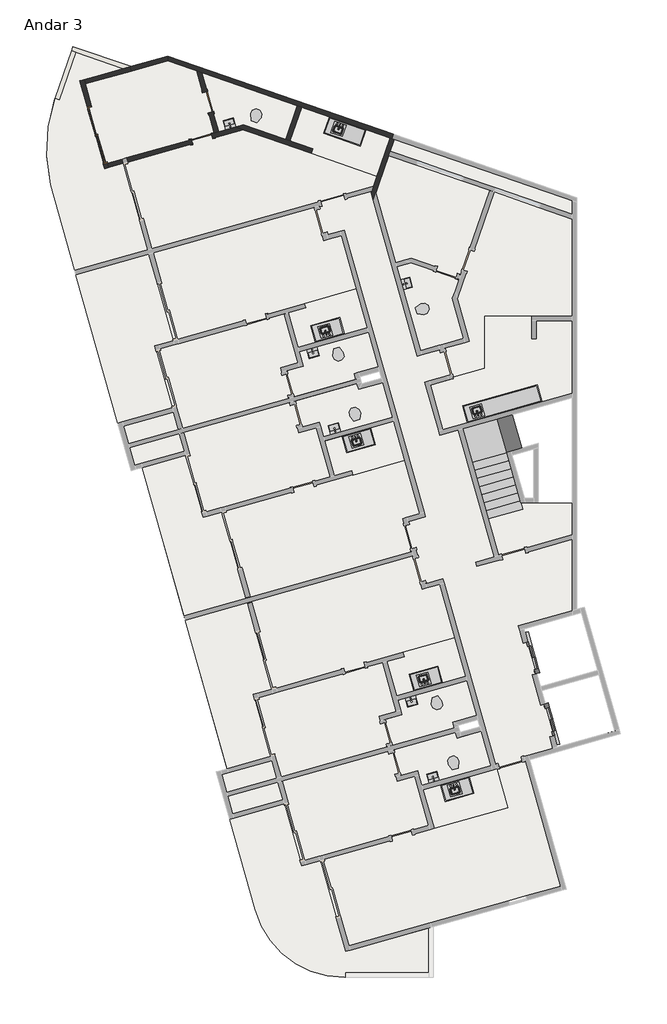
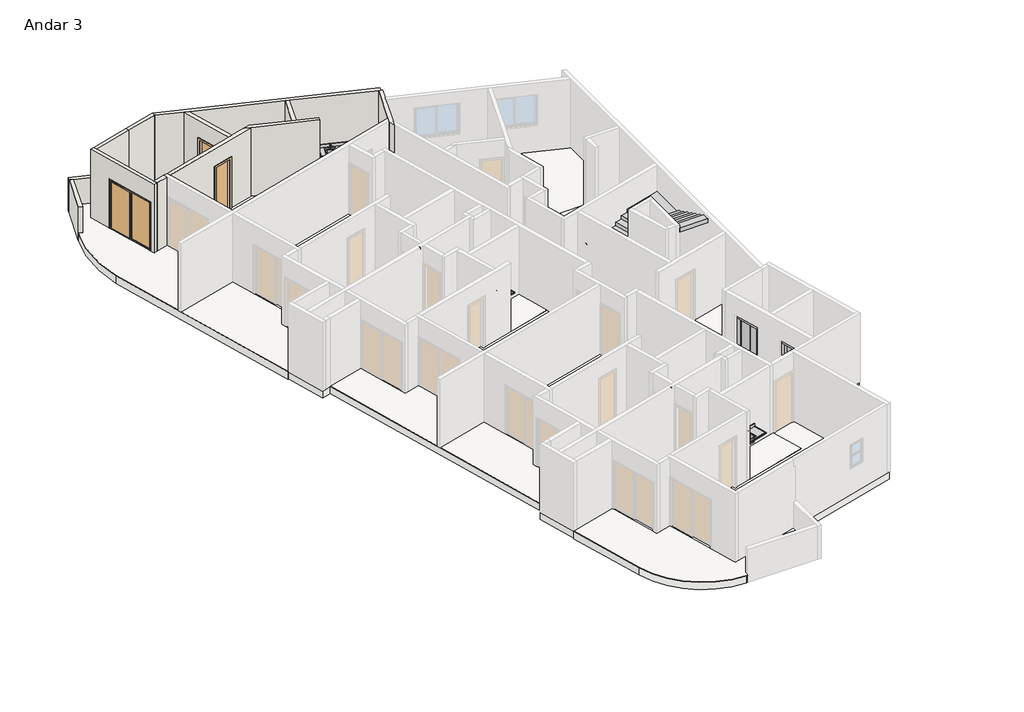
# One storey, part 3 of 3: 18 flow terminals, 18 slabs, 12 walls, 8 proxies, 3 doors, 1 stair flight.
"""IFC4 building model written with IfcOpenShell, lengths in millimetres."""

from ifc_helpers import new_model, si_unit, point, frame, frame_2d, origin, place, context, project, spatial, polyline, circle_curve, trimmed, segment, composite_curve, outline, extrude, faceted_brep, transform, mapped, element, save
from components import specialty_equipment_6c35da8b, specialty_equipment_77dfa124, rf_bancada_cozinha_rf_bancada_cozinha_340fef9f, rf_bancada_cozinha_rf_bancada_cozinha_cfb88ba1, rf_bancada_cozinha_rf_bancada_cozinha_2f873929, rf_bancada_cozinha_rf_bancada_cozinha_798ceddf, p3_70cm_ef4d15e3, p3_70cm_0a698c7c, p4_correr_200cm_eaaa0877, flow_terminal_cab7bae2, flow_terminal_3fb7dc42, flow_terminal_e42b9071, flow_terminal_c6e042c4, ap_01_creme_cr37_13e02e03, ap_01_creme_cr37_5ce6e54d

model = new_model("IFC4")

# Units and contexts
model_context = context("Model", 3, world=origin())
ifc_project = project(units=[si_unit("LENGTHUNIT", "METRE", prefix="MILLI")], contexts=[model_context])

# Site, building, storey
site = spatial("IfcSite", under=ifc_project)
building = spatial("IfcBuilding", under=site)
storey = spatial("IfcBuildingStorey", under=building, Name="Andar 3", Elevation=59450.0)

# Proxies
placement = place(None, origin())
specialty_equipment_shape = specialty_equipment_6c35da8b(model_context)
element("IfcBuildingElementProxy", 1, Name="Porta do elevador : Porta do elevador", ObjectType="Porta do elevador : Porta do elevador", at=placement, inside=storey, context=model_context, shape_type="MappedRepresentation", body=[
    mapped(specialty_equipment_shape, transform((-76594.4337486, 15747.4543727, 59450.0), x_axis=(0.27176796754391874, -0.9623628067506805, 0.0), y_axis=(0.9623628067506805, 0.27176796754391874, 0.0), z_axis=(0.0, 0.0, 1.0))),
])
specialty_equipment_2_shape = specialty_equipment_77dfa124(model_context)
element("IfcBuildingElementProxy", 2, Name="Porta do elevador : Porta do elevador", ObjectType="Porta do elevador : Porta do elevador", at=placement, inside=storey, context=model_context, shape_type="MappedRepresentation", body=[
    mapped(specialty_equipment_2_shape, transform((-75942.1906265, 13437.7836365, 59450.0), x_axis=(-0.27176796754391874, 0.9623628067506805, 0.0), y_axis=(-0.9623628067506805, -0.27176796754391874, 0.0), z_axis=(0.0, 0.0, 1.0))),
])
rf_bancada_cozinha_rf_bancada_cozinha_shape = rf_bancada_cozinha_rf_bancada_cozinha_340fef9f(model_context)
element("IfcBuildingElementProxy", 3, Name="RF_Bancada Cozinha : RF_Bancada Cozinha", ObjectType="RF_Bancada Cozinha : RF_Bancada Cozinha", at=placement, inside=storey, context=model_context, shape_type="MappedRepresentation", body=[
    mapped(rf_bancada_cozinha_rf_bancada_cozinha_shape, transform((-82760.548019, 26451.5820971, 60200.0), x_axis=(-0.9623628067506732, -0.27176796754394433, 0.0), y_axis=(0.27176796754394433, -0.9623628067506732, 0.0), z_axis=(0.0, 0.0, 1.0))),
])
element("IfcBuildingElementProxy", 4, Name="RF_Bancada Cozinha : RF_Bancada Cozinha", ObjectType="RF_Bancada Cozinha : RF_Bancada Cozinha", at=placement, inside=storey, context=model_context, shape_type="MappedRepresentation", body=[
    mapped(rf_bancada_cozinha_rf_bancada_cozinha_shape, transform((-79472.1556117, 14806.9921354, 60200.0), x_axis=(-0.9623628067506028, -0.2717679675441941, 0.0), y_axis=(0.2717679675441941, -0.9623628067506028, 0.0), z_axis=(0.0, 0.0, 1.0))),
])
rf_bancada_cozinha_rf_bancada_cozinha_2_shape = rf_bancada_cozinha_rf_bancada_cozinha_cfb88ba1(model_context)
element("IfcBuildingElementProxy", 5, Name="RF_Bancada Cozinha : RF_Bancada Cozinha", ObjectType="RF_Bancada Cozinha : RF_Bancada Cozinha", at=placement, inside=storey, context=model_context, shape_type="MappedRepresentation", body=[
    mapped(rf_bancada_cozinha_rf_bancada_cozinha_2_shape, transform((-81877.3021245, 23323.9029751, 60200.0), x_axis=(-0.9623628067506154, -0.27176796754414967, 0.0), y_axis=(0.27176796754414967, -0.9623628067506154, 0.0), z_axis=(0.0, 0.0, 1.0))),
])
element("IfcBuildingElementProxy", 6, Name="RF_Bancada Cozinha : RF_Bancada Cozinha", ObjectType="RF_Bancada Cozinha : RF_Bancada Cozinha", at=placement, inside=storey, context=model_context, shape_type="MappedRepresentation", body=[
    mapped(rf_bancada_cozinha_rf_bancada_cozinha_2_shape, transform((-78588.9097172, 11679.3130134, 60200.0), x_axis=(-0.9623628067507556, -0.27176796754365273, 0.0), y_axis=(0.27176796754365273, -0.9623628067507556, 0.0), z_axis=(0.0, 0.0, 1.0))),
])
rf_bancada_cozinha_rf_bancada_cozinha_3_shape = rf_bancada_cozinha_rf_bancada_cozinha_2f873929(model_context)
element("IfcBuildingElementProxy", 7, Name="RF_Bancada Cozinha : RF_Bancada Cozinha", ObjectType="RF_Bancada Cozinha : RF_Bancada Cozinha", at=placement, inside=storey, context=model_context, shape_type="MappedRepresentation", body=[
    mapped(rf_bancada_cozinha_rf_bancada_cozinha_3_shape, transform((-82030.0326121, 33293.9830661, 60200.0), x_axis=(-0.9449109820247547, 0.32732741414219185, 0.0), y_axis=(-0.32732741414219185, -0.9449109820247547, 0.0), z_axis=(0.0, 0.0, 1.0))),
])
rf_bancada_cozinha_rf_bancada_cozinha_4_shape = rf_bancada_cozinha_rf_bancada_cozinha_798ceddf(model_context)
element("IfcBuildingElementProxy", 8, Name="RF_Bancada Cozinha : RF_Bancada Cozinha", ObjectType="RF_Bancada Cozinha : RF_Bancada Cozinha", at=placement, inside=storey, context=model_context, shape_type="MappedRepresentation", body=[
    mapped(rf_bancada_cozinha_rf_bancada_cozinha_4_shape, transform((-76157.6622331, 24197.9763092, 60200.0), x_axis=(-0.9623628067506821, -0.27176796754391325, 0.0), y_axis=(0.27176796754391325, -0.9623628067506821, 0.0), z_axis=(0.0, 0.0, 1.0))),
])

# Doors
p3_70cm_shape = p3_70cm_ef4d15e3(model_context)
element("IfcDoor", 9, ObjectType="M_Folha única1 : P3 - 70CM", at=placement, inside=storey, context=model_context, shape_type="MappedRepresentation", body=[
    mapped(p3_70cm_shape, transform((-87513.806232, 32980.5300491, 59450.0), x_axis=(0.9623628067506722, 0.2717679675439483, 0.0), y_axis=(-0.2717679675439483, 0.9623628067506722, 0.0), z_axis=(0.0, 0.0, 1.0))),
])
p3_70cm_2_shape = p3_70cm_0a698c7c(model_context)
element("IfcDoor", 10, ObjectType="M_Folha única1 : P3 - 70CM", at=placement, inside=storey, context=model_context, shape_type="MappedRepresentation", body=[
    mapped(p3_70cm_2_shape, transform((-87314.304722, 34205.8663896, 59450.0), x_axis=(-0.2717679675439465, 0.9623628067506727, 0.0), y_axis=(-0.9623628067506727, -0.2717679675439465, 0.0), z_axis=(0.0, 0.0, 1.0))),
])
p4_correr_200cm_shape = p4_correr_200cm_eaaa0877(model_context)
element("IfcDoor", 11, ObjectType="Porta de correr dupla envidraçada sem revestimento : P4 - CORRER - 200CM", at=placement, inside=storey, context=model_context, shape_type="MappedRepresentation", body=[
    mapped(p4_correr_200cm_shape, transform((-91005.8131296, 33111.4415743, 59450.0), x_axis=(0.2717679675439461, -0.9623628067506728, 0.0), y_axis=(0.9623628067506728, 0.2717679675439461, 0.0), z_axis=(0.0, 0.0, 1.0))),
])

# Flow terminals
flow_terminal_shape = flow_terminal_cab7bae2(model_context)
element("IfcFlowTerminal", 12, ObjectType="RF_Pias : Pia da Bancada", at=placement, inside=storey, context=model_context, shape_type="MappedRepresentation", body=[
    mapped(flow_terminal_shape, transform((-83380.5102831, 26570.4992214, 59302.9), x_axis=(-0.9623628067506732, -0.27176796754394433, 0.0), y_axis=(0.27176796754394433, -0.9623628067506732, 0.0), z_axis=(0.0, 0.0, 1.0))),
])
element("IfcFlowTerminal", 13, ObjectType="RF_Pias : Pia da Bancada", at=placement, inside=storey, context=model_context, shape_type="MappedRepresentation", body=[
    mapped(flow_terminal_shape, transform((-80092.1178758, 14925.9092597, 59302.9), x_axis=(-0.9623628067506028, -0.2717679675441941, 0.0), y_axis=(0.2717679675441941, -0.9623628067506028, 0.0), z_axis=(0.0, 0.0, 1.0))),
])
element("IfcFlowTerminal", 14, ObjectType="RF_Pias : Pia da Bancada", at=placement, inside=storey, context=model_context, shape_type="MappedRepresentation", body=[
    mapped(flow_terminal_shape, transform((-78306.8185143, 23885.0542694, 59302.9), x_axis=(-0.9623628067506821, -0.27176796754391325, 0.0), y_axis=(0.27176796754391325, -0.9623628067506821, 0.0), z_axis=(0.0, 0.0, 1.0))),
])
flow_terminal_2_shape = flow_terminal_3fb7dc42(model_context)
element("IfcFlowTerminal", 15, ObjectType="Deca_Cuba de Apoio Retangular_L7300 : L.7300.17_Branco Gelo GE17", at=placement, inside=storey, context=model_context, shape_type="MappedRepresentation", body=[
    mapped(flow_terminal_2_shape, transform((-83090.0822283, 23308.7374016, 60200.0), x_axis=(-0.9623628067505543, -0.2717679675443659, 0.0), y_axis=(0.2717679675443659, -0.9623628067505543, 0.0), z_axis=(0.0, 0.0, 1.0))),
])
element("IfcFlowTerminal", 16, ObjectType="Deca_Cuba de Apoio Retangular_L7300 : L.7300.17_Branco Gelo GE17", at=placement, inside=storey, context=model_context, shape_type="MappedRepresentation", body=[
    mapped(flow_terminal_2_shape, transform((-79801.689821, 11664.1474399, 60200.0), x_axis=(-0.9623628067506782, -0.2717679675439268, 0.0), y_axis=(0.2717679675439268, -0.9623628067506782, 0.0), z_axis=(0.0, 0.0, 1.0))),
])
element("IfcFlowTerminal", 17, ObjectType="Deca_Cuba de Apoio Retangular_L7300 : L.7300.17_Branco Gelo GE17", at=placement, inside=storey, context=model_context, shape_type="MappedRepresentation", body=[
    mapped(flow_terminal_2_shape, transform((-80677.0991462, 28154.8020678, 60200.0), x_axis=(-0.2717679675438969, 0.9623628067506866, 0.0), y_axis=(-0.9623628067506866, -0.2717679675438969, 0.0), z_axis=(0.0, 0.0, 1.0))),
])
element("IfcFlowTerminal", 18, ObjectType="Deca_Cuba de Apoio Retangular_L7300 : L.7300.17_Branco Gelo GE17", at=placement, inside=storey, context=model_context, shape_type="MappedRepresentation", body=[
    mapped(flow_terminal_2_shape, transform((-86597.4204814, 33488.7004496, 60200.0), x_axis=(-0.9623628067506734, -0.27176796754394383, 0.0), y_axis=(0.27176796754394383, -0.9623628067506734, 0.0), z_axis=(0.0, 0.0, 1.0))),
])
flow_terminal_3_shape = flow_terminal_e42b9071(model_context)
element("IfcFlowTerminal", 19, ObjectType="Deca_Cuba de Apoio Retangular_L7300 : L.7300.17_Branco Gelo GE17", at=placement, inside=storey, context=model_context, shape_type="MappedRepresentation", body=[
    mapped(flow_terminal_3_shape, transform((-83802.1143033, 25830.1279553, 60200.0), x_axis=(-0.9623628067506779, -0.2717679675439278, 0.0), y_axis=(0.2717679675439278, -0.9623628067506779, 0.0), z_axis=(0.0, 0.0, 1.0))),
])
element("IfcFlowTerminal", 20, ObjectType="Deca_Cuba de Apoio Retangular_L7300 : L.7300.17_Branco Gelo GE17", at=placement, inside=storey, context=model_context, shape_type="MappedRepresentation", body=[
    mapped(flow_terminal_3_shape, transform((-80513.721896, 14185.5379936, 60200.0), x_axis=(-0.962362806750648, -0.27176796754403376, 0.0), y_axis=(0.27176796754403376, -0.962362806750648, 0.0), z_axis=(0.0, 0.0, 1.0))),
])
flow_terminal_4_shape = flow_terminal_c6e042c4(model_context)
element("IfcFlowTerminal", 21, ObjectType="RF_Pias : Pia da Bancada", at=placement, inside=storey, context=model_context, shape_type="MappedRepresentation", body=[
    mapped(flow_terminal_4_shape, transform((-82343.483233, 22898.2626745, 59302.9), x_axis=(-0.9623628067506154, -0.27176796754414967, 0.0), y_axis=(0.27176796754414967, -0.9623628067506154, 0.0), z_axis=(0.0, 0.0, 1.0))),
])
element("IfcFlowTerminal", 22, ObjectType="RF_Pias : Pia da Bancada", at=placement, inside=storey, context=model_context, shape_type="MappedRepresentation", body=[
    mapped(flow_terminal_4_shape, transform((-79055.0908257, 11253.6727129, 59302.9), x_axis=(-0.9623628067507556, -0.27176796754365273, 0.0), y_axis=(0.27176796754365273, -0.9623628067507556, 0.0), z_axis=(0.0, 0.0, 1.0))),
])
element("IfcFlowTerminal", 23, ObjectType="RF_Pias : Pia da Bancada", at=placement, inside=storey, context=model_context, shape_type="MappedRepresentation", body=[
    mapped(flow_terminal_4_shape, transform((-82939.3392028, 33309.5545572, 59302.9), x_axis=(-0.9449109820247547, 0.32732741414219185, 0.0), y_axis=(-0.32732741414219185, -0.9449109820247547, 0.0), z_axis=(0.0, 0.0, 1.0))),
])
ap_01_creme_cr37_shape = ap_01_creme_cr37_13e02e03(model_context)
element("IfcFlowTerminal", 24, ObjectType="Deca_Shared_Assento_P.900 : AP.01_Creme CR37", at=placement, inside=storey, context=model_context, shape_type="MappedRepresentation", body=[
    mapped(ap_01_creme_cr37_shape, transform((-83017.5301151, 25983.4740486, 59837.8723674), x_axis=(0.9623628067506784, 0.2717679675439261, 0.0), y_axis=(0.0, 0.0, 1.0), z_axis=(0.2717679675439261, -0.9623628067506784, 0.0))),
])
element("IfcFlowTerminal", 25, ObjectType="Deca_Shared_Assento_P.900 : AP.01_Creme CR37", at=placement, inside=storey, context=model_context, shape_type="MappedRepresentation", body=[
    mapped(ap_01_creme_cr37_shape, transform((-79729.1377078, 14338.8840869, 59837.8723674), x_axis=(0.962362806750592, 0.2717679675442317, 0.0), y_axis=(0.0, 0.0, 1.0), z_axis=(0.2717679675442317, -0.962362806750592, 0.0))),
])
element("IfcFlowTerminal", 26, ObjectType="Deca_Shared_Assento_P.900 : AP.01_Creme CR37", at=placement, inside=storey, context=model_context, shape_type="MappedRepresentation", body=[
    mapped(ap_01_creme_cr37_shape, transform((-80349.5164684, 27236.3600819, 59837.8723674), x_axis=(-0.271767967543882, 0.9623628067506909, 0.0), y_axis=(0.0, 0.0, 1.0), z_axis=(0.9623628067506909, 0.271767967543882, 0.0))),
])
element("IfcFlowTerminal", 27, ObjectType="Deca_Shared_Assento_P.900 : AP.01_Creme CR37", at=placement, inside=storey, context=model_context, shape_type="MappedRepresentation", body=[
    mapped(ap_01_creme_cr37_shape, transform((-85777.8760768, 33566.4131555, 59837.8723674), x_axis=(-0.9449109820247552, 0.3273274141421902, 0.0), y_axis=(0.0, 0.0, 1.0000000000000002), z_axis=(0.3273274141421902, 0.9449109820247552, 0.0))),
])
ap_01_creme_cr37_2_shape = ap_01_creme_cr37_5ce6e54d(model_context)
element("IfcFlowTerminal", 28, ObjectType="Deca_Shared_Assento_P.900 : AP.01_Creme CR37", at=placement, inside=storey, context=model_context, shape_type="MappedRepresentation", body=[
    mapped(ap_01_creme_cr37_2_shape, transform((-82341.1813229, 23588.4422577, 59837.8723674), x_axis=(0.9623628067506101, 0.27176796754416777, 0.0), y_axis=(0.0, 0.0, -1.0), z_axis=(-0.27176796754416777, 0.9623628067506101, 0.0))),
])
element("IfcFlowTerminal", 29, ObjectType="Deca_Shared_Assento_P.900 : AP.01_Creme CR37", at=placement, inside=storey, context=model_context, shape_type="MappedRepresentation", body=[
    mapped(ap_01_creme_cr37_2_shape, transform((-79052.7889156, 11943.852296, 59837.8723674), x_axis=(0.9623628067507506, 0.2717679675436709, 0.0), y_axis=(0.0, 0.0, -1.0000000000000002), z_axis=(-0.2717679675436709, 0.9623628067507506, 0.0))),
])

# Slabs
element("IfcSlab", 30, ObjectType="TZ_Piso de Áreas Molhadas", at=placement, inside=storey, context=model_context, shape_type="SweptSolid", body=[
    extrude(outline(composite_curve([segment(polyline([(-90765.4571774, 31984.341749), (-90143.7425806, 32159.9118263), (-89328.438678, 29272.823406), (-91766.0080564, 28584.4621444), (-92573.2320087, 31442.9384962)]), True, "CONTINUOUS"), segment(trimmed(circle_curve(frame_2d((-87414.5556743, 32622.5665107)), 5291.829908), [point((-92573.2320087, 31442.9384962))], [point((-92422.0860726, 34333.7366032))], False, "CARTESIAN"), True, "CONTINUOUS"), segment(polyline([(-92422.0860726, 34333.7366032), (-92280.2794148, 34284.6132387), (-91729.7010481, 35873.9929322), (-90151.0501028, 35327.1311202), (-91594.3494784, 34919.5483093), (-90765.4571774, 31984.341749)]), True, "CONTINUOUS")], self_intersect=False)), frame((0.0, 0.0, 59450.0), z_axis=(0.0, 0.0, 1.0), x_axis=(1.0, 0.0, 0.0)), (0.0, 0.0, 1.0), 20.0),
])
element("IfcSlab", 31, ObjectType="TZ_Piso de Áreas Molhadas", at=placement, inside=storey, context=model_context, shape_type="SweptSolid", body=[
    extrude(outline(polyline([(-88472.3695802, 26241.3805647), (-89094.084177, 26065.8104874), (-88509.7830468, 23996.7304529), (-90325.6378284, 23483.9392686), (-91725.2428613, 28440.1077234), (-89287.6734828, 29128.468985), (-88472.3695802, 26241.3805647)])), frame((0.0, 0.0, 59450.0), z_axis=(0.0, 0.0, 1.0), x_axis=(1.0, 0.0, 0.0)), (0.0, 0.0, 1.0), 20.0),
])
element("IfcSlab", 32, ObjectType="TZ_Piso de Áreas Molhadas", at=placement, inside=storey, context=model_context, shape_type="SweptSolid", body=[
    extrude(outline(polyline([(-86855.3501733, 20515.3218645), (-86040.0462707, 17628.2334443), (-88109.1263052, 17043.9323141), (-89508.731338, 22000.1007688), (-88061.3659003, 22408.8318218), (-87477.0647701, 20339.7517872), (-86855.3501733, 20515.3218645)])), frame((0.0, 0.0, 59450.0), z_axis=(0.0, 0.0, 1.0), x_axis=(1.0, 0.0, 0.0)), (0.0, 0.0, 1.0), 20.0),
])
element("IfcSlab", 33, ObjectType="TZ_Piso de Áreas Molhadas", at=placement, inside=storey, context=model_context, shape_type="SweptSolid", body=[
    extrude(outline(polyline([(-78926.5637691, 28284.9851582), (-79146.9727346, 27648.7205404), (-78771.1333302, 26317.8283554), (-80214.6775403, 25910.176404), (-81004.3851492, 28706.6252933), (-80530.2499593, 28840.5194505), (-78926.5637691, 28284.9851582)])), frame((0.0, 0.0, 59450.0), z_axis=(0.0, 0.0, 1.0), x_axis=(1.0, 0.0, 0.0)), (0.0, 0.0, 1.0), 20.0),
])
element("IfcSlab", 34, ObjectType="TZ_Piso de Áreas Molhadas", at=placement, inside=storey, context=model_context, shape_type="SweptSolid", body=[
    extrude(outline(polyline([(-78070.9150345, 27060.8243598), (-76493.6479314, 27060.8243598), (-76493.6479314, 26310.8243598), (-76343.6479314, 26310.8243598), (-76343.6479314, 26910.8243598), (-75147.8282189, 26910.8243598), (-75147.8282189, 24483.4871675), (-79467.3156296, 23263.6786855), (-79888.5559793, 24755.3410359), (-79127.7601479, 24970.1871785), (-79141.3485461, 25018.3053183), (-78070.9150345, 25320.5920836), (-78070.9150345, 27060.8243598)])), frame((0.0, 0.0, 59450.0), z_axis=(0.0, 0.0, 1.0), x_axis=(1.0, 0.0, 0.0)), (0.0, 0.0, 1.0), 20.0),
])
element("IfcSlab", 35, ObjectType="TZ_Piso de Áreas Molhadas", at=placement, inside=storey, context=model_context, shape_type="SweptSolid", body=[
    extrude(outline(polyline([(-84719.4810559, 32955.6762822), (-86137.8721095, 33447.0223292), (-86956.7711455, 33215.7680402), (-87515.4733556, 35194.1992432), (-84326.6881589, 34089.5694606), (-84719.4810559, 32955.6762822)])), frame((0.0, 0.0, 59450.0), z_axis=(0.0, 0.0, 1.0), x_axis=(1.0, 0.0, 0.0)), (0.0, 0.0, 1.0), 20.0),
])
element("IfcSlab", 36, ObjectType="TZ_Piso de Áreas Molhadas", at=placement, inside=storey, context=model_context, shape_type="SweptSolid", body=[
    extrude(outline(polyline([(-84577.7444086, 32906.57717), (-84184.9515116, 34040.4703485), (-81226.8582774, 33015.7547641), (-81668.7502865, 31740.1249383), (-83870.9147351, 32502.9785914), (-83821.815623, 32644.7152387), (-84577.7444086, 32906.57717)])), frame((0.0, 0.0, 59450.0), z_axis=(0.0, 0.0, 1.0), x_axis=(1.0, 0.0, 0.0)), (0.0, 0.0, 1.0), 20.0),
])
element("IfcSlab", 37, ObjectType="TZ_Piso de Áreas Molhadas", at=placement, inside=storey, context=model_context, shape_type="SweptSolid", body=[
    extrude(outline(polyline([(-81949.8925784, 26524.6420501), (-81623.7710174, 25369.806682), (-82432.1557751, 25141.5215893), (-82377.8021816, 24949.0490279), (-84456.5058441, 24362.030218), (-84701.0970149, 25228.1567441), (-84123.6793309, 25391.2175246), (-84259.5633146, 25872.398928), (-81949.8925784, 26524.6420501)])), frame((0.0, 0.0, 59450.0), z_axis=(0.0, 0.0, 1.0), x_axis=(1.0, 0.0, 0.0)), (0.0, 0.0, 1.0), 20.0),
])
element("IfcSlab", 38, ObjectType="TZ_Piso de Áreas Molhadas", at=placement, inside=storey, context=model_context, shape_type="SweptSolid", body=[
    extrude(outline(polyline([(-84089.7975819, 27479.0039186), (-82357.5445298, 27968.1862602), (-81990.6577736, 26668.9964711), (-84300.3285098, 26016.753349), (-84626.4500708, 27171.5887171), (-84049.0323868, 27334.6494976), (-84089.7975819, 27479.0039186)])), frame((0.0, 0.0, 59450.0), z_axis=(0.0, 0.0, 1.0), x_axis=(1.0, 0.0, 0.0)), (0.0, 0.0, 1.0), 20.0),
])
element("IfcSlab", 39, ObjectType="TZ_Piso de Áreas Molhadas", at=placement, inside=storey, context=model_context, shape_type="SweptSolid", body=[
    extrude(outline(polyline([(-84171.1494782, 23351.5492709), (-84415.740649, 24217.675797), (-82337.0369864, 24804.6946069), (-82282.6833929, 24612.2220455), (-81474.2986352, 24840.5071383), (-81148.1770742, 23685.6717702), (-83457.8478104, 23033.4286481), (-83593.7317942, 23514.6100514), (-84171.1494782, 23351.5492709)])), frame((0.0, 0.0, 59450.0), z_axis=(0.0, 0.0, 1.0), x_axis=(1.0, 0.0, 0.0)), (0.0, 0.0, 1.0), 20.0),
])
element("IfcSlab", 40, ObjectType="TZ_Piso de Áreas Molhadas", at=placement, inside=storey, context=model_context, shape_type="SweptSolid", body=[
    extrude(outline(composite_curve([segment(polyline([(-79945.4990038, 5119.4122055), (-82713.5540687, 5119.4122055), (-82713.5540687, 4969.4122055), (-82751.3896972, 4969.4122055)]), True, "CONTINUOUS"), segment(trimmed(circle_curve(frame_2d((-82751.3896972, 8069.4122055)), 3100.0), [point((-82751.3896972, 4969.4122055))], [point((-85734.7143981, 7226.9315061))], False, "CARTESIAN"), True, "CONTINUOUS"), segment(polyline([(-85734.7143981, 7226.9315061), (-86588.8282733, 10251.4506708), (-84772.9735093, 10764.2419177), (-84188.6722855, 8695.1618243), (-83566.957766, 8870.7319029), (-82710.8885369, 5839.2889958), (-79945.4990038, 6620.2256515), (-79945.4990038, 5119.4122055)]), True, "CONTINUOUS")], self_intersect=False)), frame((0.0, 0.0, 59450.0), z_axis=(0.0, 0.0, 1.0), x_axis=(1.0, 0.0, 0.0)), (0.0, 0.0, 1.0), 20.0),
])
element("IfcSlab", 41, ObjectType="TZ_Piso de Áreas Molhadas", at=placement, inside=storey, context=model_context, shape_type="SweptSolid", body=[
    extrude(outline(polyline([(-78185.906228, 13195.9171766), (-77859.7846669, 12041.0818085), (-80169.4554031, 11388.8386864), (-80305.3393869, 11870.0200898), (-80882.7570709, 11706.9593092), (-81127.3482417, 12573.0858353), (-79048.6445791, 13160.1046452), (-78994.2909856, 12967.6320839), (-78185.906228, 13195.9171766)])), frame((0.0, 0.0, 59450.0), z_axis=(0.0, 0.0, 1.0), x_axis=(1.0, 0.0, 0.0)), (0.0, 0.0, 1.0), 20.0),
])
element("IfcSlab", 42, ObjectType="TZ_Piso de Áreas Molhadas", at=placement, inside=storey, context=model_context, shape_type="SweptSolid", body=[
    extrude(outline(polyline([(-77307.7782946, 10638.3027935), (-79761.8034518, 9945.2944763), (-80128.690208, 11244.4842654), (-77674.6650508, 11937.4925826), (-77307.7782946, 10638.3027935)])), frame((0.0, 0.0, 59450.0), z_axis=(0.0, 0.0, 1.0), x_axis=(1.0, 0.0, 0.0)), (0.0, 0.0, 1.0), 20.0),
])
element("IfcSlab", 43, ObjectType="TZ_Piso de Áreas Molhadas", at=placement, inside=storey, context=model_context, shape_type="SweptSolid", body=[
    extrude(outline(polyline([(-81107.9410005, 23543.1910314), (-80740.5251229, 22242.1275601), (-82472.778175, 21752.9452185), (-82513.5433702, 21897.2996395), (-83090.9610542, 21734.238859), (-83418.0192411, 22888.8089065), (-81107.9410005, 23543.1910314)])), frame((0.0, 0.0, 59450.0), z_axis=(0.0, 0.0, 1.0), x_axis=(1.0, 0.0, 0.0)), (0.0, 0.0, 1.0), 20.0),
])
element("IfcSlab", 44, ObjectType="TZ_Piso de Áreas Molhadas", at=placement, inside=storey, context=model_context, shape_type="SweptSolid", body=[
    extrude(outline(polyline([(-85183.9771729, 14596.790603), (-85805.6917697, 14421.2205257), (-85221.3906395, 12352.1404912), (-86668.7560772, 11943.4094383), (-88068.36111, 16899.5778931), (-85999.2810755, 17483.8790233), (-85183.9771729, 14596.790603)])), frame((0.0, 0.0, 59450.0), z_axis=(0.0, 0.0, 1.0), x_axis=(1.0, 0.0, 0.0)), (0.0, 0.0, 1.0), 20.0),
])
element("IfcSlab", 45, ObjectType="TZ_Piso de Áreas Molhadas", at=placement, inside=storey, context=model_context, shape_type="SweptSolid", body=[
    extrude(outline(polyline([(-81412.7046076, 13583.5667824), (-80835.2869236, 13746.6275629), (-80971.1709074, 14227.8089663), (-78661.5001712, 14880.0520884), (-78335.3786101, 13725.2167203), (-79143.7633678, 13496.9316276), (-79089.4097743, 13304.4590662), (-81168.1134368, 12717.4402563), (-81412.7046076, 13583.5667824)])), frame((0.0, 0.0, 59450.0), z_axis=(0.0, 0.0, 1.0), x_axis=(1.0, 0.0, 0.0)), (0.0, 0.0, 1.0), 20.0),
])
element("IfcSlab", 46, ObjectType="TZ_Piso de Áreas Molhadas", at=placement, inside=storey, context=model_context, shape_type="SweptSolid", body=[
    extrude(outline(polyline([(-78701.7362448, 15022.5328272), (-81012.8731576, 14371.8995868), (-81338.0576635, 15526.9987554), (-80760.6399795, 15690.059536), (-80801.4051746, 15834.413957), (-79069.1521225, 16323.5962985), (-78701.7362448, 15022.5328272)])), frame((0.0, 0.0, 59450.0), z_axis=(0.0, 0.0, 1.0), x_axis=(1.0, 0.0, 0.0)), (0.0, 0.0, 1.0), 20.0),
])
element("IfcSlab", 47, ObjectType="TZ_Laje 30cm", at=placement, inside=storey, context=model_context, shape_type="SweptSolid", body=[
    extrude(outline(composite_curve([segment(polyline([(-82713.5540687, 4969.4122055), (-82751.3896972, 4969.4122055)]), True, "CONTINUOUS"), segment(trimmed(circle_curve(frame_2d((-82751.3896972, 8069.4122055)), 3100.0), [point((-82751.3896972, 4969.4122055))], [point((-85734.7143981, 7226.9315061))], False, "CARTESIAN"), True, "CONTINUOUS"), segment(polyline([(-85734.7143981, 7226.9315061), (-86588.8282747, 10251.4506758), (-86574.3928326, 10255.5271953), (-87018.7334595, 11828.9903844), (-86664.6795577, 11928.9739962), (-89512.8078575, 22014.5362109), (-89866.8617594, 21914.5525991), (-90311.2023863, 23488.0157882), (-90325.6378284, 23483.9392686), (-92573.2320087, 31442.9384962)]), True, "CONTINUOUS"), segment(trimmed(circle_curve(frame_2d((-87414.5556743, 32622.5665107)), 5291.829908), [point((-92573.2320087, 31442.9384962))], [point((-92426.4466323, 34320.9224218))], False, "CARTESIAN"), True, "CONTINUOUS"), segment(polyline([(-92426.4466323, 34320.9224218), (-92422.0160621, 34333.7123509), (-92403.1178425, 34327.1658026), (-91809.986912, 36039.3839237), (-89899.2062586, 35377.468778), (-88658.6666899, 35727.7929124), (-75017.8282189, 31002.4584964), (-75017.8282189, 17238.3098681), (-74750.7083414, 17313.7436086), (-73565.8000029, 13117.8417711), (-76592.4310301, 12263.1315132), (-75369.6745845, 7933.2050117), (-79815.4990038, 6677.7193903), (-79815.4990038, 4989.4122055), (-82713.5540687, 4989.4122055), (-82713.5540687, 4969.4122055)]), True, "CONTINUOUS")], self_intersect=False), holes=[polyline([(-81583.0058223, 25225.452261), (-82247.0361589, 25037.9323634), (-82179.094167, 24797.3416617), (-81515.0638304, 24984.8615593), (-81583.0058223, 25225.452261)]), polyline([(-78294.613415, 13580.8622993), (-78958.6437516, 13393.3424017), (-78890.7017597, 13152.7517), (-78226.6714231, 13340.2715976), (-78294.613415, 13580.8622993)]), polyline([(-74840.4856705, 17153.3066079), (-76760.3994699, 16611.1295126), (-76221.8794944, 14704.1660107), (-75646.150803, 12665.442005), (-73726.2370035, 13207.6191002), (-74270.7319215, 15135.7405865), (-74840.4856705, 17153.3066079)]), polyline([(-77952.9130698, 20291.1915783), (-76801.2963825, 20616.4041949), (-76858.5413412, 20819.1154254), (-75147.8282189, 20819.1154254), (-75147.8282189, 24343.0530162), (-78807.9060206, 23309.4595541), (-77952.9130698, 20291.1915783)])]), frame((0.0, 0.0, 59150.0), z_axis=(0.0, 0.0, 1.0), x_axis=(1.0, 0.0, 0.0)), (0.0, 0.0, 1.0), 300.0),
])

# Stair flight
element("IfcStairFlight", 48, ObjectType="Profundidade de 150mm", at=placement, inside=storey, context=model_context, shape_type="Brep", body=[
    faceted_brep([(-78029.0944782, 20560.1246789, 59588.0952381), (-77952.7808761, 20290.7249124, 59588.0952381), (-76802.2714069, 20616.6328483, 59588.0952381), (-76878.3664628, 20886.0945229, 59588.0952381), (-78029.0944782, 20560.1246789, 59450.0), (-77952.7808761, 20290.7249124, 59450.0), (-76802.2714069, 20616.6328483, 59450.0), (-76878.3664628, 20886.0945229, 59450.0), (-78105.4080802, 20829.5244453, 59726.1904762), (-78029.0944782, 20560.1246789, 59726.1904762), (-76878.3664628, 20886.0945229, 59726.1904762), (-76954.4615188, 21155.5561975, 59726.1904762), (-78105.4080802, 20829.5244453, 59558.939228), (-78045.2065482, 20617.0029783, 59450.0), (-76894.4323913, 20942.985893, 59450.0), (-76954.4615188, 21155.5561975, 59558.939228), (-78181.7216823, 21098.9242117, 59864.2857143), (-78105.4080802, 20829.5244453, 59864.2857143), (-76954.4615188, 21155.5561975, 59864.2857143), (-77030.5565747, 21425.017872, 59864.2857143), (-78181.7216823, 21098.9242117, 59697.0344661), (-77030.5565747, 21425.017872, 59697.0344661), (-78258.0352843, 21368.3239781, 60002.3809524), (-78181.7216823, 21098.9242117, 60002.3809524), (-77030.5565747, 21425.017872, 60002.3809524), (-77106.6516307, 21694.4795466, 60002.3809524), (-78258.0352843, 21368.3239781, 59835.1297042), (-77106.6516307, 21694.4795466, 59835.1297042), (-78334.3488864, 21637.7237445, 60140.4761905), (-78258.0352843, 21368.3239781, 60140.4761905), (-77106.6516307, 21694.4795466, 60140.4761905), (-77182.7466866, 21963.9412211, 60140.4761905), (-78334.3488864, 21637.7237445, 59973.2249423), (-77182.7466866, 21963.9412211, 59973.2249423), (-78410.6624885, 21907.1235109, 60278.5714286), (-78334.3488864, 21637.7237445, 60278.5714286), (-77182.7466866, 21963.9412211, 60278.5714286), (-77258.8417426, 22233.4028957, 60278.5714286), (-78410.6624885, 21907.1235109, 60111.3201804), (-77258.8417426, 22233.4028957, 60111.3201804), (-78486.9760905, 22176.5232773, 60416.6666667), (-78410.6624885, 21907.1235109, 60416.6666667), (-77258.8417426, 22233.4028957, 60416.6666667), (-77334.9367985, 22502.8645702, 60416.6666667), (-78486.9760905, 22176.5232773, 60249.4154185), (-77334.9367985, 22502.8645702, 60249.4154185), (-77650.6473278, 23620.8332322, 60554.7619048), (-78803.8582924, 23295.1703972, 60554.7619048), (-78572.8230038, 22479.5772253, 60554.7619048), (-78486.9760905, 22176.5232773, 60554.7619048), (-77334.9367985, 22502.8645702, 60554.7619048), (-77337.6544782, 22512.4881983, 60554.7619048), (-77650.6473278, 23620.8332322, 60404.7619048), (-78803.8582924, 23295.1703972, 60404.7619048), (-78572.8230038, 22479.5772253, 60404.7619048), (-77420.5378643, 22805.9881601, 60404.7619048), (-77337.6544782, 22512.4881983, 60404.7619048), (-77650.6473278, 23620.8332322, 60692.8571429), (-77337.6544782, 22512.4881983, 60692.8571429), (-77303.5536842, 22522.118146, 60692.8571429), (-77083.6709973, 22584.2122653, 60692.8571429), (-77396.6638468, 23692.5572992, 60692.8571429), (-77616.5465338, 23630.4631799, 60692.8571429), (-77396.6638468, 23692.5572992, 60519.0904432), (-77616.5465338, 23630.4631799, 60404.7619048), (-77303.5536842, 22522.118146, 60404.7619048), (-77083.6709973, 22584.2122653, 60519.0904432), (-77127.202261, 23768.6523301, 60830.952381), (-77396.6638468, 23692.5572992, 60830.952381), (-77083.6709973, 22584.2122653, 60830.952381), (-76814.2094114, 22660.3072962, 60830.952381), (-77127.202261, 23768.6523301, 60659.1976509), (-76814.2094114, 22660.3072962, 60659.1976509), (-76857.7406751, 23844.747361, 60969.047619), (-77127.202261, 23768.6523301, 60969.047619), (-76814.2094114, 22660.3072962, 60969.047619), (-76544.7478255, 22736.4023271, 60969.047619), (-76857.7406751, 23844.747361, 60799.3048586), (-76544.7478255, 22736.4023271, 60799.3048586), (-76588.2790892, 23920.842392, 61107.1428571), (-76857.7406751, 23844.747361, 61107.1428571), (-76544.7478255, 22736.4023271, 61107.1428571), (-76275.2862396, 22812.497358, 61107.1428571), (-76588.2790892, 23920.842392, 60939.4120663), (-75975.593386, 22897.1295956, 61095.2380952), (-76275.2862396, 22812.497358, 61095.2380952), (-75147.8282189, 22779.1154254, 61245.2380952), (-75147.8282189, 24327.6207947, 61245.2380952), (-76288.5862355, 24005.4746296, 61245.2380952), (-76588.2790892, 23920.842392, 61245.2380952), (-76275.2862396, 22812.497358, 61245.2380952), (-76275.2862396, 22779.1154254, 61245.2380952), (-75147.8282189, 22779.1154254, 61095.2380952), (-75147.8282189, 24327.6207947, 61095.2380952), (-76288.5862355, 24005.4746296, 61095.2380952), (-76275.2862396, 22779.1154254, 61095.2380952), (-75147.8282189, 22779.1154254, 61383.3333333), (-76275.2862396, 22779.1154254, 61383.3333333), (-76275.2862396, 22744.1370326, 61383.3333333), (-76275.2862396, 22499.1154254, 61383.3333333), (-75147.8282189, 22499.1154254, 61383.3333333), (-75147.8282189, 22744.1370326, 61383.3333333), (-75147.8282189, 22499.1154254, 61216.0820852), (-75147.8282189, 22744.1370326, 61095.2380952), (-76275.2862396, 22744.1370326, 61095.2380952), (-76275.2862396, 22499.1154254, 61216.0820852), (-75147.8282189, 22219.1154254, 61521.4285714), (-75147.8282189, 22499.1154254, 61521.4285714), (-76275.2862396, 22499.1154254, 61521.4285714), (-76275.2862396, 22219.1154254, 61521.4285714), (-75147.8282189, 22219.1154254, 61354.1773233), (-76275.2862396, 22219.1154254, 61354.1773233), (-75147.8282189, 21939.1154254, 61659.5238095), (-75147.8282189, 22219.1154254, 61659.5238095), (-76275.2862396, 22219.1154254, 61659.5238095), (-76275.2862396, 21939.1154254, 61659.5238095), (-75147.8282189, 21939.1154254, 61492.2725614), (-76275.2862396, 21939.1154254, 61492.2725614), (-75147.8282189, 21659.1154254, 61797.6190476), (-75147.8282189, 21939.1154254, 61797.6190476), (-76275.2862396, 21939.1154254, 61797.6190476), (-76275.2862396, 21659.1154254, 61797.6190476), (-75147.8282189, 21659.1154254, 61630.3677995), (-76275.2862396, 21659.1154254, 61630.3677995), (-75147.8282189, 21379.1154254, 61935.7142857), (-75147.8282189, 21659.1154254, 61935.7142857), (-76275.2862396, 21659.1154254, 61935.7142857), (-76275.2862396, 21379.1154254, 61935.7142857), (-75147.8282189, 21379.1154254, 61768.4630376), (-76275.2862396, 21379.1154254, 61768.4630376), (-75147.8282189, 21099.1154254, 62073.8095238), (-75147.8282189, 21379.1154254, 62073.8095238), (-76275.2862396, 21379.1154254, 62073.8095238), (-76275.2862396, 21099.1154254, 62073.8095238), (-75147.8282189, 21099.1154254, 61906.5582757), (-76275.2862396, 21099.1154254, 61906.5582757), (-75147.8282189, 20819.1154254, 62211.9047619), (-75147.8282189, 21099.1154254, 62211.9047619), (-76275.2862396, 21099.1154254, 62211.9047619), (-76275.2862396, 20819.1154254, 62211.9047619), (-75147.8282189, 20819.1154254, 62044.6535138), (-76275.2862396, 20819.1154254, 62044.6535138), (-76275.2862396, 23958.3777566, 61095.2380952)], [[[0, 1, 2, 3]], [[1, 0, 4, 5]], [[2, 1, 5, 6]], [[3, 2, 6, 7]], [[8, 9, 10, 11]], [[4, 0, 9, 8, 12, 13]], [[0, 3, 10, 9]], [[3, 7, 14, 15, 11, 10]], [[16, 17, 18, 19]], [[17, 16, 20, 12, 8]], [[8, 11, 18, 17]], [[19, 18, 11, 15, 21]], [[22, 23, 24, 25]], [[23, 22, 26, 20, 16]], [[16, 19, 24, 23]], [[25, 24, 19, 21, 27]], [[28, 29, 30, 31]], [[29, 28, 32, 26, 22]], [[22, 25, 30, 29]], [[31, 30, 25, 27, 33]], [[34, 35, 36, 37]], [[35, 34, 38, 32, 28]], [[28, 31, 36, 35]], [[37, 36, 31, 33, 39]], [[40, 41, 42, 43]], [[41, 40, 44, 38, 34]], [[34, 37, 42, 41]], [[43, 42, 37, 39, 45]], [[46, 47, 48, 49, 50, 51]], [[47, 46, 52, 53]], [[40, 49, 48, 47, 53, 54, 44]], [[40, 43, 50, 49]], [[51, 50, 43, 45, 55, 56]], [[57, 58, 59, 60, 61, 62]], [[46, 57, 62, 61, 63, 64, 52]], [[46, 51, 58, 57]], [[58, 51, 56, 65, 66, 60, 59]], [[67, 68, 69, 70]], [[68, 67, 71, 63, 61]], [[61, 60, 69, 68]], [[70, 69, 60, 66, 72]], [[73, 74, 75, 76]], [[74, 73, 77, 71, 67]], [[67, 70, 75, 74]], [[76, 75, 70, 72, 78]], [[79, 80, 81, 82]], [[80, 79, 83, 77, 73]], [[73, 76, 81, 80]], [[82, 81, 76, 78, 84, 85]], [[86, 87, 88, 89, 90, 91]], [[87, 86, 92, 93]], [[79, 89, 88, 87, 93, 94, 83]], [[79, 82, 90, 89]], [[91, 90, 82, 85, 95]], [[96, 97, 98, 99, 100, 101]], [[86, 96, 101, 100, 102, 103, 92]], [[86, 91, 97, 96]], [[97, 91, 95, 104, 105, 99, 98]], [[106, 107, 108, 109]], [[107, 106, 110, 102, 100]], [[100, 99, 108, 107]], [[109, 108, 99, 105, 111]], [[112, 113, 114, 115]], [[113, 112, 116, 110, 106]], [[106, 109, 114, 113]], [[115, 114, 109, 111, 117]], [[118, 119, 120, 121]], [[119, 118, 122, 116, 112]], [[112, 115, 120, 119]], [[121, 120, 115, 117, 123]], [[124, 125, 126, 127]], [[125, 124, 128, 122, 118]], [[118, 121, 126, 125]], [[127, 126, 121, 123, 129]], [[130, 131, 132, 133]], [[131, 130, 134, 128, 124]], [[124, 127, 132, 131]], [[133, 132, 127, 129, 135]], [[136, 137, 138, 139]], [[137, 136, 140, 134, 130]], [[130, 133, 138, 137]], [[139, 138, 133, 135, 141]], [[136, 139, 141, 140]], [[5, 4, 13, 14, 7, 6]], [[54, 55, 45, 39, 33, 27, 21, 15, 14, 13, 12, 20, 26, 32, 38, 44]], [[55, 54, 53, 52, 64, 65, 56]], [[65, 64, 63, 71, 77, 83, 94, 142, 84, 78, 72, 66]], [[142, 94, 93, 92, 103, 104, 95, 85, 84]], [[104, 103, 102, 110, 116, 122, 128, 134, 140, 141, 135, 129, 123, 117, 111, 105]]]),
])

# Walls
element("IfcWall", 49, ObjectType="Básica .15 - Externa", at=placement, inside=storey, context=model_context, shape_type="Brep", body=[
    faceted_brep([(-88662.6343714, 35591.588263, 59450.0), (-87688.240739, 35254.0477389, 59450.0), (-87515.4733556, 35194.1992432, 59450.0), (-84326.6881589, 34089.5694606, 59450.0), (-84184.9515116, 34040.4703485, 59450.0), (-81226.8582774, 33015.7547641, 59450.0), (-81156.3583355, 32991.3328194, 59450.0), (-81156.3583355, 32991.3328194, 60750.0), (-81085.1216301, 32966.655652, 60750.0), (-81085.1216301, 32966.655652, 62050.0), (-81156.3583355, 32991.3328194, 62050.0), (-81156.3583355, 32991.3328194, 62350.0), (-81226.8582774, 33015.7547641, 62350.0), (-84184.9515116, 34040.4703485, 62350.0), (-84326.6881589, 34089.5694606, 62350.0), (-87515.4733556, 35194.1992432, 62350.0), (-87688.240739, 35254.0477389, 62350.0), (-88662.6343714, 35591.588263, 62350.0), (-88658.0562773, 35748.7474739, 59450.0), (-88658.0562773, 35748.7474739, 62350.0), (-81107.2592234, 33133.0694667, 62350.0), (-81107.2592234, 33133.0694667, 62050.0), (-81036.022518, 33108.3922993, 62050.0), (-81036.022518, 33108.3922993, 60750.0), (-81107.2592234, 33133.0694667, 60750.0), (-81107.2592234, 33133.0694667, 59450.0)], [[[0, 1, 2, 3, 4, 5, 6, 7, 8, 9, 10, 11, 12, 13, 14, 15, 16, 17]], [[18, 19, 20, 21, 22, 23, 24, 25]], [[6, 5, 4, 3, 2, 1, 0, 18, 25]], [[17, 16, 15, 14, 13, 12, 11, 20, 19]], [[0, 17, 19, 18]], [[7, 6, 25, 24]], [[23, 8, 7, 24]], [[11, 10, 21, 20]], [[21, 10, 9, 22]], [[9, 8, 23, 22]]]),
])
element("IfcWall", 50, ObjectType="Básica .15 -  Interna", at=placement, inside=storey, context=model_context, shape_type="Brep", body=[
    faceted_brep([(-81789.2550074, 30934.0017027, 59450.0), (-81703.3880158, 31181.8778654, 59450.0), (-81272.8781344, 32424.6503839, 59450.0), (-81223.7790223, 32566.3870312, 59450.0), (-81085.1216301, 32966.655652, 59450.0), (-81085.1216301, 32966.655652, 60750.0), (-81085.1216301, 32966.655652, 62050.0), (-81085.1216301, 32966.655652, 62350.0), (-81223.7790223, 32566.3870312, 62350.0), (-81272.8781344, 32424.6503839, 62350.0), (-81703.3880158, 31181.8778654, 62350.0), (-81789.2550074, 30934.0017027, 62350.0), (-81860.5472267, 31186.4559595, 59450.0), (-81860.5472267, 31186.4559595, 62350.0), (-81845.4155775, 31230.1371819, 62350.0), (-81785.5670817, 31402.9045654, 62350.0), (-81226.8582774, 33015.7547641, 62350.0), (-81226.8582774, 33015.7547641, 59450.0), (-81785.5670817, 31402.9045654, 59450.0), (-81845.4155775, 31230.1371819, 59450.0), (-81156.3583355, 32991.3328194, 59450.0), (-81156.3583355, 32991.3328194, 62350.0)], [[[0, 1, 2, 3, 4, 5, 6, 7, 8, 9, 10, 11]], [[12, 13, 14, 15, 16, 17, 18, 19]], [[4, 3, 2, 1, 0, 12, 19, 18, 17, 20]], [[11, 10, 9, 8, 7, 21, 16, 15, 14, 13]], [[0, 11, 13, 12]], [[4, 20, 17, 16, 21, 7, 6, 5]]]),
])
element("IfcWall", 51, ObjectType="Básica .15 -  Interna", at=placement, inside=storey, context=model_context, shape_type="Brep", body=[
    faceted_brep([(-91449.9950574, 34960.3135045, 62350.0), (-91409.2298622, 34815.9590835, 62350.0), (-90661.8679515, 32169.4613651, 62350.0), (-90621.1027564, 32025.1069441, 62350.0), (-90621.1027564, 32025.1069441, 59450.0), (-90661.8679515, 32169.4613651, 59450.0), (-90661.8679515, 32169.4613651, 61550.0), (-91205.4038866, 34094.1869786, 61550.0), (-91205.4038866, 34094.1869786, 59450.0), (-91409.2298622, 34815.9590835, 59450.0), (-91449.9950574, 34960.3135045, 59450.0), (-90765.4571774, 31984.341749, 62350.0), (-91594.3494784, 34919.5483093, 62350.0), (-91594.3494784, 34919.5483093, 59450.0), (-91349.7583076, 34053.4217835, 59450.0), (-91349.7583076, 34053.4217835, 61550.0), (-90806.2223725, 32128.69617, 61550.0), (-90806.2223725, 32128.69617, 59450.0), (-90765.4571774, 31984.341749, 59450.0)], [[[0, 1, 2, 3, 4, 5, 6, 7, 8, 9, 10]], [[11, 12, 13, 14, 15, 16, 17, 18]], [[4, 18, 17, 5]], [[13, 10, 9, 8, 14]], [[3, 2, 1, 0, 12, 11]], [[4, 3, 11, 18]], [[16, 6, 5, 17]], [[6, 16, 15, 7]], [[7, 15, 14, 8]], [[0, 10, 13, 12]]]),
])
element("IfcWall", 52, ObjectType="Básica .15 - Externa", at=placement, inside=storey, context=model_context, shape_type="Brep", body=[
    faceted_brep([(-91871.4376954, 35923.0920443, 59150.0), (-91729.7010481, 35873.9929322, 59150.0), (-90151.0501028, 35327.1311202, 59150.0), (-90151.0501028, 35327.1311202, 60550.0), (-91729.7010481, 35873.9929322, 60550.0), (-91871.4376954, 35923.0920443, 60550.0), (-91822.3385833, 36064.8286916, 59150.0), (-91822.3385833, 36064.8286916, 60550.0), (-89898.595846, 35398.4233395, 60550.0), (-89898.595846, 35398.4233395, 59150.0)], [[[0, 1, 2, 3, 4, 5]], [[6, 7, 8, 9]], [[2, 1, 0, 6, 9]], [[5, 4, 3, 8, 7]], [[0, 5, 7, 6]], [[3, 2, 9, 8]]]),
])
element("IfcWall", 53, ObjectType="Básica .15 - Externa", at=placement, inside=storey, context=model_context, shape_type="SweptSolid", body=[
    extrude(outline(polyline([(-91729.7010481, 35873.9929322), (-92280.2794148, 34284.6132387), (-92422.0160621, 34333.7123509), (-91871.4376954, 35923.0920443), (-91729.7010481, 35873.9929322)])), frame((0.0, 0.0, 59150.0), z_axis=(0.0, 0.0, 1.0), x_axis=(1.0, 0.0, 0.0)), (0.0, 0.0, 1.0), 1400.0),
])
element("IfcWall", 54, ObjectType="Básica .15 - Externa", at=placement, inside=storey, context=model_context, shape_type="SweptSolid", body=[
    extrude(outline(polyline([(-89921.2674906, 35392.0209445), (-88658.0562773, 35748.7474739), (-88662.6343714, 35591.588263), (-89880.5022955, 35247.6665235), (-89921.2674906, 35392.0209445)])), frame((0.0, 0.0, 59450.0), z_axis=(0.0, 0.0, 1.0), x_axis=(1.0, 0.0, 0.0)), (0.0, 0.0, 1.0), 2900.0),
])
element("IfcWall", 55, ObjectType="Básica .15 -  Interna", at=placement, inside=storey, context=model_context, shape_type="Brep", body=[
    faceted_brep([(-90184.5077758, 32304.2662473, 59450.0), (-90661.8679515, 32169.4613651, 59450.0), (-90661.8679515, 32169.4613651, 61550.0), (-90661.8679515, 32169.4613651, 62350.0), (-90184.5077758, 32304.2662473, 62350.0), (-90143.7425806, 32159.9118263, 59450.0), (-90143.7425806, 32159.9118263, 61550.0), (-90143.7425806, 32159.9118263, 62350.0), (-90621.1027564, 32025.1069441, 62350.0), (-90621.1027564, 32025.1069441, 59450.0)], [[[0, 1, 2, 3, 4]], [[5, 6, 7, 8, 9]], [[1, 0, 5, 9]], [[4, 3, 8, 7]], [[0, 4, 7, 6, 5]], [[3, 2, 1, 9, 8]]]),
])
element("IfcWall", 56, ObjectType="Básica .15 -  Interna", at=placement, inside=storey, context=model_context, shape_type="SweptSolid", body=[
    extrude(outline(polyline([(-91449.9950574, 34960.3135045), (-89921.2674906, 35392.0209445), (-89880.5022955, 35247.6665235), (-91409.2298622, 34815.9590835), (-91449.9950574, 34960.3135045)])), frame((0.0, 0.0, 59450.0), z_axis=(0.0, 0.0, 1.0), x_axis=(1.0, 0.0, 0.0)), (0.0, 0.0, 1.0), 2900.0),
])
element("IfcWall", 57, ObjectType="Básica .15 -  Interna", at=placement, inside=storey, context=model_context, shape_type="Brep", body=[
    faceted_brep([(-83821.815623, 32644.7152387, 59450.0), (-84577.7444086, 32906.57717, 59450.0), (-84719.4810559, 32955.6762822, 59450.0), (-86137.8721095, 33447.0223292, 59450.0), (-86137.8721095, 33447.0223292, 62350.0), (-84719.4810559, 32955.6762822, 62350.0), (-84577.7444086, 32906.57717, 62350.0), (-83821.815623, 32644.7152387, 62350.0), (-83870.9147351, 32502.9785914, 59450.0), (-83870.9147351, 32502.9785914, 62350.0), (-86142.4502035, 33289.8631183, 62350.0), (-86390.3263662, 33375.7301099, 62350.0), (-86390.3263662, 33375.7301099, 59450.0), (-86142.4502035, 33289.8631183, 59450.0)], [[[0, 1, 2, 3, 4, 5, 6, 7]], [[8, 9, 10, 11, 12, 13]], [[3, 2, 1, 0, 8, 13, 12]], [[7, 6, 5, 4, 11, 10, 9]], [[0, 7, 9, 8]], [[4, 3, 12, 11]]]),
])
element("IfcWall", 58, ObjectType="Básica .15 -  Interna", at=placement, inside=storey, context=model_context, shape_type="Brep", body=[
    faceted_brep([(-86390.3263662, 33375.7301099, 59450.0), (-86956.7711455, 33215.7680402, 59450.0), (-87101.1255666, 33175.002845, 59450.0), (-87197.3618472, 33147.8260483, 59450.0), (-87197.3618472, 33147.8260483, 61550.0), (-87871.015812, 32957.588471, 61550.0), (-87871.015812, 32957.588471, 59450.0), (-90040.1533547, 32345.0314424, 59450.0), (-90040.1533547, 32345.0314424, 62350.0), (-87101.1255666, 33175.002845, 62350.0), (-86956.7711455, 33215.7680402, 62350.0), (-86390.3263662, 33375.7301099, 62350.0), (-87156.5966521, 33003.4716273, 61550.0), (-87156.5966521, 33003.4716273, 59450.0), (-86142.4502035, 33289.8631183, 59450.0), (-86142.4502035, 33289.8631183, 62350.0), (-89999.3881596, 32200.6770214, 62350.0), (-89999.3881596, 32200.6770214, 61550.0), (-89999.3881596, 32200.6770214, 59450.0), (-87830.2506168, 32813.23405, 59450.0), (-87830.2506168, 32813.23405, 61550.0)], [[[0, 1, 2, 3, 4, 5, 6, 7, 8, 9, 10, 11]], [[12, 13, 14, 15, 16, 17, 18, 19, 20]], [[19, 18, 7, 6]], [[14, 13, 3, 2, 1, 0]], [[11, 10, 9, 8, 16, 15]], [[4, 3, 13, 12]], [[5, 4, 12, 20]], [[6, 5, 20, 19]], [[0, 11, 15, 14]], [[8, 7, 18, 17, 16]]]),
])
element("IfcWall", 59, ObjectType="Básica .15 -  Interna", at=placement, inside=storey, context=model_context, shape_type="SweptSolid", body=[
    extrude(outline(polyline([(-84184.9515116, 34040.4703485), (-84577.7444086, 32906.57717), (-84719.4810559, 32955.6762822), (-84326.6881589, 34089.5694606), (-84184.9515116, 34040.4703485)])), frame((0.0, 0.0, 59450.0), z_axis=(0.0, 0.0, 1.0), x_axis=(1.0, 0.0, 0.0)), (0.0, 0.0, 1.0), 2900.0),
])
element("IfcWall", 60, ObjectType="Básica .15 -  Interna", at=placement, inside=storey, context=model_context, shape_type="Brep", body=[
    faceted_brep([(-87337.2463001, 34563.0759696, 61550.0), (-87337.2463001, 34563.0759696, 59450.0), (-87515.4733556, 35194.1992432, 59450.0), (-87515.4733556, 35194.1992432, 62350.0), (-86956.7711455, 33215.7680402, 62350.0), (-86956.7711455, 33215.7680402, 59450.0), (-87147.0087228, 33889.4220048, 59450.0), (-87147.0087228, 33889.4220048, 61550.0), (-87688.240739, 35254.0477389, 59450.0), (-87481.6007211, 34522.3107744, 59450.0), (-87481.6007211, 34522.3107744, 61550.0), (-87291.3631438, 33848.6568097, 61550.0), (-87291.3631438, 33848.6568097, 59450.0), (-87101.1255666, 33175.002845, 59450.0), (-87101.1255666, 33175.002845, 62350.0), (-87688.240739, 35254.0477389, 62350.0)], [[[0, 1, 2, 3, 4, 5, 6, 7]], [[8, 9, 10, 11, 12, 13, 14, 15]], [[6, 5, 13, 12]], [[2, 1, 9, 8]], [[4, 3, 15, 14]], [[10, 9, 1, 0]], [[11, 10, 0, 7]], [[12, 11, 7, 6]], [[5, 4, 14, 13]], [[3, 2, 8, 15]]]),
])

save(model, "model.ifc")
